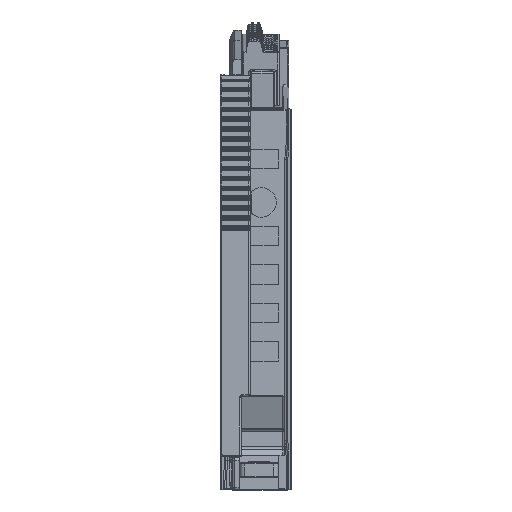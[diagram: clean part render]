
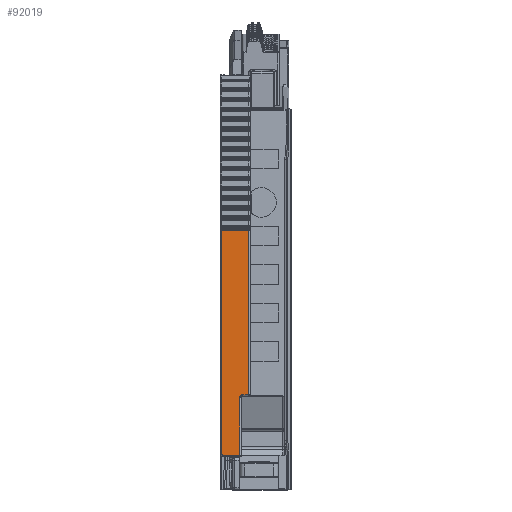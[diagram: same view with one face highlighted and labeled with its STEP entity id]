
A CAD part, front view. The second image highlights one B-rep face of the part: STEP entity #92019.
In plain terms, the highlighted planar face has unit normal (0, -1, 0).
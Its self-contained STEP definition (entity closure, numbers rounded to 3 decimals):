
#6601 = VERTEX_POINT ( 'NONE', #33032 ) ;
#10072 = EDGE_CURVE ( 'NONE', #6601, #15765, #68517, .T. ) ;
#14618 = CARTESIAN_POINT ( 'NONE',  ( -7.6, -52.5, 46.995 ) ) ;
#15765 = VERTEX_POINT ( 'NONE', #180837 ) ;
#23440 = CARTESIAN_POINT ( 'NONE',  ( -7.5, -52.5, 1.4 ) ) ;
#23726 = EDGE_CURVE ( 'NONE', #121146, #178471, #117577, .T. ) ;
#24487 = EDGE_CURVE ( 'NONE', #62767, #60467, #128316, .T. ) ;
#25528 = DIRECTION ( 'NONE',  ( 0., 0., -1. ) ) ;
#31220 = AXIS2_PLACEMENT_3D ( 'NONE', #120018, #176480, #36059 ) ;
#33032 = CARTESIAN_POINT ( 'NONE',  ( -3.3, -52.5, 13.7 ) ) ;
#34929 = DIRECTION ( 'NONE',  ( 1., 0., 0. ) ) ;
#36059 = DIRECTION ( 'NONE',  ( -1., 0., 0. ) ) ;
#37569 = DIRECTION ( 'NONE',  ( -1., 0., 0. ) ) ;
#39727 = EDGE_CURVE ( 'NONE', #15765, #62767, #99490, .T. ) ;
#42220 = ORIENTED_EDGE ( 'NONE', *, *, #136937, .T. ) ;
#44811 = FACE_OUTER_BOUND ( 'NONE', #46201, .T. ) ;
#46201 = EDGE_LOOP ( 'NONE', ( #149692, #142316, #99509, #86180, #42220, #78217, #135293, #68048 ) ) ;
#49120 = AXIS2_PLACEMENT_3D ( 'NONE', #121490, #149181, #76879 ) ;
#52962 = DIRECTION ( 'NONE',  ( 0., 1., 0. ) ) ;
#53816 = VECTOR ( 'NONE', #144358, 1000. ) ;
#59134 = VERTEX_POINT ( 'NONE', #127646 ) ;
#60467 = VERTEX_POINT ( 'NONE', #14618 ) ;
#62767 = VERTEX_POINT ( 'NONE', #106877 ) ;
#66344 = DIRECTION ( 'NONE',  ( 0., 0., 1. ) ) ;
#68048 = ORIENTED_EDGE ( 'NONE', *, *, #10072, .T. ) ;
#68517 = LINE ( 'NONE', #90098, #175980 ) ;
#68795 = EDGE_CURVE ( 'NONE', #60467, #121146, #113140, .T. ) ;
#70258 = EDGE_CURVE ( 'NONE', #163337, #6601, #81864, .T. ) ;
#76879 = DIRECTION ( 'NONE',  ( -1., 0., 0. ) ) ;
#78217 = ORIENTED_EDGE ( 'NONE', *, *, #82364, .T. ) ;
#81864 = CIRCLE ( 'NONE', #31220, 0.6 ) ;
#82364 = EDGE_CURVE ( 'NONE', #59134, #163337, #129941, .T. ) ;
#86180 = ORIENTED_EDGE ( 'NONE', *, *, #23726, .T. ) ;
#87219 = CARTESIAN_POINT ( 'NONE',  ( -7.2, -52.5, 1.4 ) ) ;
#90098 = CARTESIAN_POINT ( 'NONE',  ( -7.5, -52.5, 13.7 ) ) ;
#92019 = ADVANCED_FACE ( 'NONE', ( #44811 ), #122709, .F. ) ;
#96481 = CARTESIAN_POINT ( 'NONE',  ( -7.6, -52.5, 125.518 ) ) ;
#99490 = LINE ( 'NONE', #129930, #156672 ) ;
#99509 = ORIENTED_EDGE ( 'NONE', *, *, #68795, .T. ) ;
#106877 = CARTESIAN_POINT ( 'NONE',  ( -2.1, -52.5, 46.995 ) ) ;
#107421 = DIRECTION ( 'NONE',  ( 1., 0., 0. ) ) ;
#113140 = LINE ( 'NONE', #96481, #172361 ) ;
#117577 = CIRCLE ( 'NONE', #49120, 0.4 ) ;
#120018 = CARTESIAN_POINT ( 'NONE',  ( -3.3, -52.5, 13.1 ) ) ;
#120302 = CARTESIAN_POINT ( 'NONE',  ( -3.9, -52.5, 13.1 ) ) ;
#121146 = VERTEX_POINT ( 'NONE', #170243 ) ;
#121490 = CARTESIAN_POINT ( 'NONE',  ( -7.2, -52.5, 1.8 ) ) ;
#121528 = CARTESIAN_POINT ( 'NONE',  ( -7.5, -52.5, 125.518 ) ) ;
#122709 = PLANE ( 'NONE',  #167957 ) ;
#127646 = CARTESIAN_POINT ( 'NONE',  ( -3.9, -52.5, 1.4 ) ) ;
#128316 = LINE ( 'NONE', #143143, #53816 ) ;
#129930 = CARTESIAN_POINT ( 'NONE',  ( -2.1, -52.5, 125.518 ) ) ;
#129941 = LINE ( 'NONE', #134423, #132280 ) ;
#132280 = VECTOR ( 'NONE', #66344, 1000. ) ;
#133616 = DIRECTION ( 'NONE',  ( 0., 0., 1. ) ) ;
#134423 = CARTESIAN_POINT ( 'NONE',  ( -3.9, -52.5, 13.1 ) ) ;
#135293 = ORIENTED_EDGE ( 'NONE', *, *, #70258, .T. ) ;
#136937 = EDGE_CURVE ( 'NONE', #178471, #59134, #141996, .T. ) ;
#137625 = VECTOR ( 'NONE', #107421, 1000. ) ;
#141996 = LINE ( 'NONE', #23440, #137625 ) ;
#142316 = ORIENTED_EDGE ( 'NONE', *, *, #24487, .T. ) ;
#143143 = CARTESIAN_POINT ( 'NONE',  ( -7.5, -52.5, 46.995 ) ) ;
#144358 = DIRECTION ( 'NONE',  ( -1., 0., 0. ) ) ;
#149181 = DIRECTION ( 'NONE',  ( 0., -1., 0. ) ) ;
#149692 = ORIENTED_EDGE ( 'NONE', *, *, #39727, .T. ) ;
#156672 = VECTOR ( 'NONE', #133616, 1000. ) ;
#163337 = VERTEX_POINT ( 'NONE', #120302 ) ;
#167957 = AXIS2_PLACEMENT_3D ( 'NONE', #121528, #52962, #37569 ) ;
#170243 = CARTESIAN_POINT ( 'NONE',  ( -7.6, -52.5, 1.8 ) ) ;
#172361 = VECTOR ( 'NONE', #25528, 1000. ) ;
#175980 = VECTOR ( 'NONE', #34929, 1000. ) ;
#176480 = DIRECTION ( 'NONE',  ( 0., 1., 0. ) ) ;
#178471 = VERTEX_POINT ( 'NONE', #87219 ) ;
#180837 = CARTESIAN_POINT ( 'NONE',  ( -2.1, -52.5, 13.7 ) ) ;
